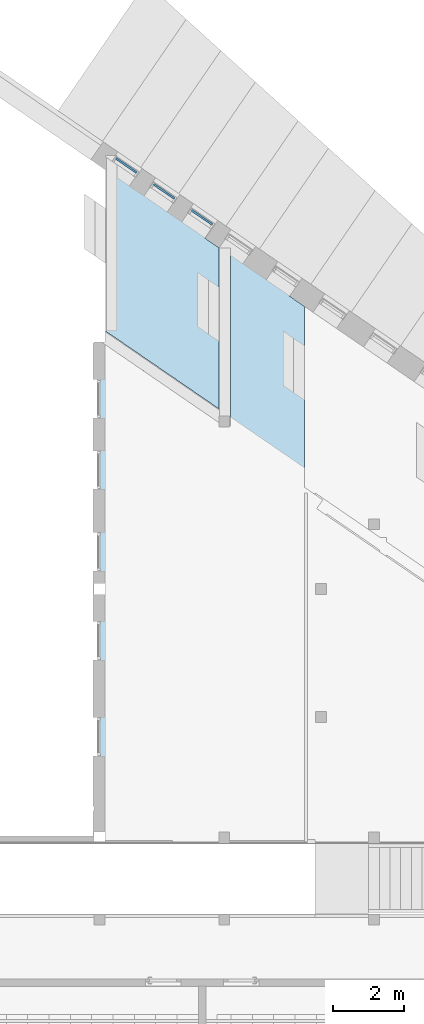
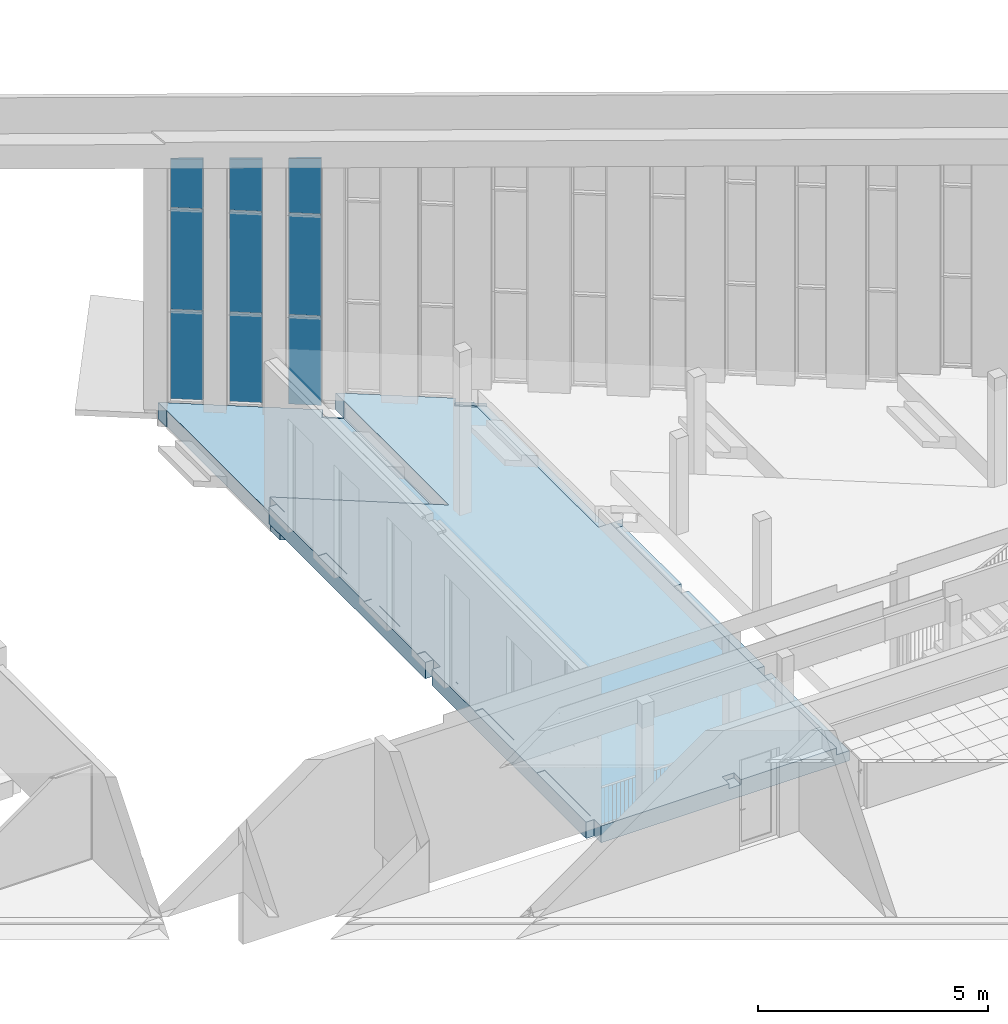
# One storey, part 32 of 79: 9 plates, 2 slabs, 3 elements without a shape of their own.
"""IFC2X3 building model written with IfcOpenShell, lengths in millimetres."""

from ifc_helpers import new_model, entity, si_unit, converted_unit, derived_unit, money_unit, direction, frame, origin_with_axes, place, context, subcontext, project, spatial, faceted_brep, material, material_list, type_object, element, aggregate, save


model = new_model("IFC2X3")

# Units and contexts
model_context = context("Model", 3, precision=0.01, world=origin_with_axes(), true_north=direction((0.0, 1.0)))
body_context = subcontext(model_context, "Body", "Model", "MODEL_VIEW")
ifc_project = project(units=[si_unit("LENGTHUNIT", "METRE", prefix="MILLI"), si_unit("AREAUNIT", "SQUARE_METRE"), si_unit("VOLUMEUNIT", "CUBIC_METRE"), converted_unit("PLANEANGLEUNIT", "DEGREE", entity("IfcPlaneAngleMeasure", 0.0174532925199), si_unit("PLANEANGLEUNIT", "RADIAN"), dimensions=[0, 0, 0, 0, 0, 0, 0]), si_unit("SOLIDANGLEUNIT", "STERADIAN"), money_unit("EUR"), converted_unit("TIMEUNIT", "Year", entity("IfcTimeMeasure", 31556926.0), si_unit("TIMEUNIT", "SECOND"), dimensions=[0, 0, 1, 0, 0, 0, 0]), si_unit("MASSUNIT", "GRAM", prefix="KILO"), si_unit("THERMODYNAMICTEMPERATUREUNIT", "DEGREE_CELSIUS"), si_unit("LUMINOUSINTENSITYUNIT", "LUMEN"), si_unit("ENERGYUNIT", "JOULE", prefix="MEGA"), derived_unit("THERMALCONDUCTANCEUNIT", [(si_unit("POWERUNIT", "WATT"), 1), (si_unit("LENGTHUNIT", "METRE"), -1), (si_unit("THERMODYNAMICTEMPERATUREUNIT", "KELVIN"), -1)]), derived_unit("SPECIFICHEATCAPACITYUNIT", [(si_unit("ENERGYUNIT", "JOULE"), 1), (si_unit("MASSUNIT", "GRAM", prefix="KILO"), -1), (si_unit("THERMODYNAMICTEMPERATUREUNIT", "KELVIN"), -1)]), derived_unit("MASSDENSITYUNIT", [(si_unit("MASSUNIT", "GRAM", prefix="KILO"), 1), (si_unit("VOLUMEUNIT", "CUBIC_METRE"), -1)])], contexts=[model_context])

# Site, building, storey
site_placement = place(None, origin_with_axes())
site = spatial("IfcSite", under=ifc_project, at=site_placement, Name="L.Koidula tn 11b", CompositionType="ELEMENT")
building_placement = place(site_placement, origin_with_axes())
building = spatial("IfcBuilding", under=site, at=building_placement, Name="Rakvere Riigigümnaasium", CompositionType="ELEMENT")
storey_placement = place(building_placement, frame((0.0, 0.0, 3720.0), z_axis=(0.0, 0.0, 1.0), x_axis=(1.0, 0.0, 0.0)))
storey = spatial("IfcBuildingStorey", under=building, at=storey_placement, Name="2.korrus +3,72", CompositionType="ELEMENT", Elevation=3720.0)

# Curtain wall, plates
curtain_wall_type = type_object("IfcCurtainWallType", Name="Curtain Wall Type", PredefinedType="NOTDEFINED")
curtain_wall_1_placement = place(storey_placement, frame((58784.8898209, 36159.1031473, -1860.00002162), z_axis=(0.0, 0.0, 1.0), x_axis=(1.0, 0.0, 0.0)))
curtain_wall_1 = element("IfcCurtainWall", 1, at=curtain_wall_1_placement, inside=storey, type_object=curtain_wall_type, Name="KLF-06-21")
ifc_material_1 = material(Name="Klaaspakett 3x")
plate_type_1 = type_object("IfcPlateType", Name="Distinct Panel 716 x 1277 x 54", PredefinedType="CURTAIN_PANEL")
plate_1_placement = place(curtain_wall_1_placement, frame((0.0, 0.0, 5773.7459999), z_axis=(0.0, 0.0, 1.0), x_axis=(-0.824666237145, 0.565619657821, 0.0)))
plate_1 = element("IfcPlate", 2, at=plate_1_placement, type_object=plate_type_1, material=ifc_material_1, Name="KLF-06-21-Klaasid", ObjectType="CURTAIN_PANEL", context=body_context, shape_type="Brep", body=[
    faceted_brep([(-357.787096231, 27.0, 657.946193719), (-357.787096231, -27.0, 657.946193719), (357.787167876, -27.0, 615.415055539), (357.787167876, 27.0, 615.415055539), (-357.78711666, 27.0, -661.745924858), (-357.78711666, -27.0, -661.745924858), (357.787045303, -27.0, -661.745924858), (357.787045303, 27.0, -661.745924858)], [[[0, 1, 2, 3]], [[4, 5, 1, 0]], [[1, 5, 6, 2]], [[3, 2, 6, 7]], [[0, 3, 7, 4]], [[7, 6, 5, 4]]]),
])
plate_type_2 = type_object("IfcPlateType", Name="Distinct Panel 716 x 2676 x 54", PredefinedType="CURTAIN_PANEL")
plate_2_placement = place(curtain_wall_1_placement, frame((-6.44359232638e-06, 4.41951186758e-06, 3750.00007855), z_axis=(0.0, 0.0, 1.0), x_axis=(-0.824666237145, 0.565619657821, 0.0)))
plate_2 = element("IfcPlate", 3, at=plate_2_placement, type_object=plate_type_2, material=ifc_material_1, Name="KLF-06-21-Klaasid", ObjectType="CURTAIN_PANEL", context=body_context, shape_type="Brep", body=[
    faceted_brep([(-357.787137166, 27.0, 1338.00001341), (-357.787137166, -27.0, 1338.00001341), (357.787052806, -27.0, 1338.00001341), (357.787052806, 27.0, 1338.00001341), (-357.7870567, 27.0, -1338.00001341), (-357.7870567, -27.0, -1338.00001341), (357.787133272, -27.0, -1338.00001341), (357.787133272, 27.0, -1338.00001341)], [[[0, 1, 2, 3]], [[4, 5, 1, 0]], [[1, 5, 6, 2]], [[3, 2, 6, 7]], [[0, 3, 7, 4]], [[7, 6, 5, 4]]]),
])

# Curtain wall, plate
curtain_wall_2_placement = place(storey_placement, frame((59849.7544247, 35428.7459613, -1860.00000854), z_axis=(0.0, 0.0, 1.0), x_axis=(1.0, 0.0, 0.0)))
curtain_wall_2 = element("IfcCurtainWall", 4, at=curtain_wall_2_placement, inside=storey, type_object=curtain_wall_type, Name="KLF-06-20")
plate_3_placement = place(curtain_wall_2_placement, frame((0.0, 0.0, 3750.00006547), z_axis=(0.0, 0.0, 1.0), x_axis=(-0.824666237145, 0.565619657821, 0.0)))
plate_3 = element("IfcPlate", 5, at=plate_3_placement, type_object=plate_type_2, material=ifc_material_1, Name="KLF-06-20-Klaasid", ObjectType="CURTAIN_PANEL", context=body_context, shape_type="Brep", body=[
    faceted_brep([(-357.871088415, 27.0, 1338.00001341), (-357.871088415, -27.0, 1338.00001341), (358.008471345, -27.0, 1338.00001341), (358.008471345, 27.0, 1338.00001341), (-357.870967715, 27.0, -1338.00001341), (-357.870967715, -27.0, -1338.00001341), (357.733598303, -27.0, -1338.00001341), (357.733598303, 27.0, -1338.00001341)], [[[0, 1, 2, 3]], [[4, 5, 1, 0]], [[1, 5, 6, 2]], [[3, 2, 6, 7]], [[0, 3, 7, 4]], [[7, 6, 5, 4]]]),
])

curtain_wall_3_placement = place(storey_placement, frame((60913.4534613, 34699.1792069, -1860.00008737), z_axis=(0.0, 0.0, 1.0), x_axis=(1.0, 0.0, 0.0)))
curtain_wall_3 = element("IfcCurtainWall", 6, at=curtain_wall_3_placement, inside=storey, type_object=curtain_wall_type, Name="KLF-06-19")
plate_4_placement = place(curtain_wall_3_placement, frame((0.0, 0.0, 3750.0001443), z_axis=(0.0, 0.0, 1.0), x_axis=(-0.824666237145, 0.565619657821, 0.0)))
plate_4 = element("IfcPlate", 7, at=plate_4_placement, type_object=plate_type_2, material=ifc_material_1, Name="KLF-06-19-Klaasid", ObjectType="CURTAIN_PANEL", context=body_context, shape_type="Brep", body=[
    faceted_brep([(-358.000003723, 27.0, 1338.00001341), (-358.000003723, -27.0, 1338.00001341), (357.999933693, -27.0, 1338.00001341), (357.999933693, 27.0, 1338.00001341), (-357.99984279, 27.0, -1338.00001341), (-357.99984279, -27.0, -1338.00001341), (357.999933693, -27.0, -1338.00001341), (357.999933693, 27.0, -1338.00001341)], [[[0, 1, 2, 3]], [[4, 5, 1, 0]], [[1, 5, 6, 2]], [[3, 2, 6, 7]], [[0, 3, 7, 4]], [[7, 6, 5, 4]]]),
])

# Plate
plate_type_3 = type_object("IfcPlateType", Name="Distinct Panel 716 x 2351 x 54", PredefinedType="CURTAIN_PANEL")
plate_5_placement = place(curtain_wall_1_placement, frame((-6.13040143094e-05, 4.20470200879e-05, 1200.00003928), z_axis=(0.0, 0.0, 1.0), x_axis=(-0.824666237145, 0.565619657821, 0.0)))
plate_5 = element("IfcPlate", 8, at=plate_5_placement, type_object=plate_type_3, material=ifc_material_1, Name="KLF-06-21-Klaasid", ObjectType="CURTAIN_PANEL", context=body_context, shape_type="Brep", body=[
    faceted_brep([(-357.787109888, 27.0, 1188.00003888), (-357.787109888, -27.0, 1188.00003888), (357.787049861, -27.0, 1188.00003888), (357.787049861, 27.0, 1188.00003888), (-357.787109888, 27.0, -1163.00003807), (-357.787109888, -27.0, -1163.00003807), (357.787157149, -27.0, -1163.00003807), (357.787157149, 27.0, -1163.00003807)], [[[0, 1, 2, 3]], [[4, 5, 1, 0]], [[1, 5, 6, 2]], [[3, 2, 6, 7]], [[0, 3, 7, 4]], [[7, 6, 5, 4]]]),
])

aggregate(curtain_wall_1, [plate_1, plate_2, plate_5])

plate_6_placement = place(curtain_wall_3_placement, frame((-5.6600676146e-05, 3.88211063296e-05, 1200.00007215), z_axis=(0.0, 0.0, 1.0), x_axis=(-0.824666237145, 0.565619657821, 0.0)))
plate_6 = element("IfcPlate", 9, at=plate_6_placement, type_object=plate_type_3, material=ifc_material_1, Name="KLF-06-19-Klaasid", ObjectType="CURTAIN_PANEL", context=body_context, shape_type="Brep", body=[
    faceted_brep([(-357.999921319, 27.0, 1188.00003011), (-357.999921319, -27.0, 1188.00003011), (357.999859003, -27.0, 1188.00003011), (357.999859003, 27.0, 1188.00003011), (-357.99981403, 27.0, -1163.00007057), (-357.99981403, -27.0, -1163.00007057), (357.999859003, -27.0, -1163.00007057), (357.999859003, 27.0, -1163.00007057)], [[[0, 1, 2, 3]], [[4, 5, 1, 0]], [[1, 5, 6, 2]], [[3, 2, 6, 7]], [[0, 3, 7, 4]], [[7, 6, 5, 4]]]),
])

plate_type_4 = type_object("IfcPlateType", Name="Distinct Panel 715 x 2351 x 54", PredefinedType="CURTAIN_PANEL")
plate_7_placement = place(curtain_wall_2_placement, frame((0.104988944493, -0.0720095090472, 1200.00003273), z_axis=(0.0, 0.0, 1.0), x_axis=(-0.824666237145, 0.565619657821, 0.0)))
plate_7 = element("IfcPlate", 10, at=plate_7_placement, type_object=plate_type_4, material=ifc_material_1, Name="KLF-06-20-Klaasid", ObjectType="CURTAIN_PANEL", context=body_context, shape_type="Brep", body=[
    faceted_brep([(-357.743654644, 27.0, 1188.00002391), (-357.743654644, -27.0, 1188.00002391), (357.858465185, -27.0, 1188.00002391), (357.858465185, 27.0, 1188.00002391), (-357.743654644, 27.0, -1163.00003186), (-357.743654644, -27.0, -1163.00003186), (357.631263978, -27.0, -1163.00003186), (357.631263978, 27.0, -1163.00003186)], [[[0, 1, 2, 3]], [[4, 5, 1, 0]], [[1, 5, 6, 2]], [[3, 2, 6, 7]], [[0, 3, 7, 4]], [[7, 6, 5, 4]]]),
])

plate_type_5 = type_object("IfcPlateType", Name="Distinct Panel 716 x 135 x 54", PredefinedType="CURTAIN_PANEL")
plate_8_placement = place(curtain_wall_2_placement, frame((-65.2351971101, 44.7433254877, 5915.84394023), z_axis=(0.0, 0.0, 1.0), x_axis=(-0.824666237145, 0.565619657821, 0.0)))
plate_8 = element("IfcPlate", 11, at=plate_8_placement, type_object=plate_type_5, material=ifc_material_1, Name="KLF-06-20-Klaasid", ObjectType="CURTAIN_PANEL", context=body_context, shape_type="Brep", body=[
    faceted_brep([(-436.976035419, 27.0, 592.601255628), (-436.976035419, -27.0, 592.601255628), (279.023645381, -27.0, 550.044843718), (279.023645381, 27.0, 550.044843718), (-436.976035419, 27.0, -803.843871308), (-436.976035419, -27.0, -803.843871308), (278.905902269, -27.0, -803.843871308), (279.023688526, -27.0, 414.912834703), (279.023688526, 27.0, 414.912834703), (278.905902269, 27.0, -803.843871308)], [[[0, 1, 2, 3]], [[4, 5, 1, 0]], [[1, 5, 6, 7, 2]], [[3, 2, 7, 8]], [[0, 3, 8, 9, 4]], [[9, 6, 5, 4]], [[8, 7, 6, 9]]]),
])

aggregate(curtain_wall_2, [plate_3, plate_7, plate_8])

plate_type_6 = type_object("IfcPlateType", Name="Distinct Panel 716 x 1431 x 54", PredefinedType="CURTAIN_PANEL")
plate_9_placement = place(curtain_wall_3_placement, frame((6.2593436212e-05, -4.29314042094e-05, 5850.45229898), z_axis=(0.0, 0.0, 1.0), x_axis=(-0.824666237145, 0.565619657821, 0.0)))
plate_9 = element("IfcPlate", 12, at=plate_9_placement, type_object=plate_type_6, material=ifc_material_1, Name="KLF-06-19-Klaasid", ObjectType="CURTAIN_PANEL", context=body_context, shape_type="Brep", body=[
    faceted_brep([(-358.000113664, 27.0, 734.665106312), (-358.000113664, -27.0, 734.665106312), (358.000045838, -27.0, 692.108586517), (358.000045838, 27.0, 692.108586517), (-357.999931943, 27.0, -738.45216432), (-357.999931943, -27.0, -738.45216432), (358.000000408, -27.0, -738.45216432), (358.000000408, 27.0, -738.45216432)], [[[0, 1, 2, 3]], [[4, 5, 1, 0]], [[1, 5, 6, 2]], [[3, 2, 6, 7]], [[0, 3, 7, 4]], [[7, 6, 5, 4]]]),
])

aggregate(curtain_wall_3, [plate_4, plate_9, plate_6])

# Slabs
ifc_material_2 = material(Name="Parkett")
ifc_material_3 = material(Name="Betoon")
ifc_material_4 = material(Name="Mürasummutus vill")
ifc_material_5 = material(Name="Betoon õõnespaneel")
ifc_material_list = material_list([ifc_material_2, ifc_material_3, ifc_material_4, ifc_material_5])
slab_type = type_object("IfcSlabType", Name="VL-03 445", PredefinedType="NOTDEFINED")
slab_1_placement = place(storey_placement, frame((57980.0347849, 31200.4552786, -1395.0), z_axis=(0.0, 0.0, 1.0), x_axis=(1.0, 0.0, 0.0)))
element("IfcSlab", 13, at=slab_1_placement, inside=storey, type_object=slab_type, material=ifc_material_list, Name="Suured astmed", PredefinedType="NOTDEFINED", context=body_context, shape_type="Brep", body=[
    faceted_brep([(3409.98614609, -14089.5000576, -10.0), (200.000096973, -14089.5000576, -10.0), (200.000096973, -13889.9997691, -10.0), (200.000026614, -11644.3096663, -10.0), (2.51788989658e-05, -11644.3096663, -10.0), (2.51788989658e-05, -10564.3096663, -10.0), (200.000027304, -10564.3096663, -10.0), (200.000028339, -8944.45883695, -10.0), (2.51788989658e-05, -8944.45883695, -10.0), (2.51788989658e-05, -7864.45883695, -10.0), (200.00002903, -7864.45883695, -10.0), (200.000029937, -6444.14850412, -10.0), (2.51788989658e-05, -6444.14850412, -10.0), (2.51788989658e-05, -5364.14850412, -10.0), (200.000030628, -5364.14850412, -10.0), (200.000031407, -4144.81505318, -10.0), (2.51788989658e-05, -4144.81505318, -10.0), (2.51788989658e-05, -3064.81505318, -10.0), (200.000032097, -3064.81505318, -10.0), (200.000032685, -2145.04608211, -10.0), (2.51788989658e-05, -2145.04608211, -10.0), (2.51788989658e-05, -1065.04608211, -10.0), (200.000033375, -1065.04608211, -10.0), (200.000034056, 0.000239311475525, -10.0), (200.000025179, 300.000239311, -10.0), (224.581434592, 300.000262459, -10.0), (221.481737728, 290.00026234, -10.0), (3409.96603786, -1896.77966241, -10.0), (3419.96602111, -1903.6380191, -10.0), (3419.97711686, 2638.73247619, -10.0), (3409.97713362, 2645.59123925, -10.0), (3409.9780223, 3009.39975224, -10.0), (5565.76089727, 1530.80035773, -10.0), (5396.06140792, 1283.38081072, -10.0), (5809.98614609, 999.479164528, -10.0), (5809.98614609, -4257.76917264, -10.0), (6129.98614609, -4257.76917264, -10.0), (6429.96521538, -4257.76917264, -10.0), (6429.96521538, -4257.93883786, -10.0), (6109.96521538, -4257.93883786, -10.0), (6109.96521431, -14089.5000576, -10.0), (3709.98614609, -14089.5000576, -10.0), (3709.98614609, -13790.0227645, -10.0), (3409.98614609, -13790.0227645, -10.0), (3409.98614609, -14089.5000576, 0.0), (200.000096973, -14089.5000576, 0.0), (200.00002661, -11644.3096663, 0.0), (2.51788989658e-05, -11644.3096663, 0.0), (2.51788989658e-05, -10564.3096663, 0.0), (200.000027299, -10564.3096663, 0.0), (200.000028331, -8944.45883695, 0.0), (2.51788989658e-05, -8944.45883695, 0.0), (2.51788989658e-05, -7864.45883695, 0.0), (200.00002902, -7864.45883695, 0.0), (200.000029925, -6444.14850412, 0.0), (2.51788989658e-05, -6444.14850412, 0.0), (2.51788989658e-05, -5364.14850412, 0.0), (200.000030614, -5364.14850412, 0.0), (200.000031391, -4144.81505318, 0.0), (2.51788989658e-05, -4144.81505318, 0.0), (2.51788989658e-05, -3064.81505318, 0.0), (200.00003208, -3064.81505318, 0.0), (200.000032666, -2145.04608211, 0.0), (2.51788989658e-05, -2145.04608211, 0.0), (2.51788989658e-05, -1065.04608211, 0.0), (200.000033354, -1065.04608211, 0.0), (200.000033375, 0.000239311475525, 0.0), (200.000025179, 300.000239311, 0.0), (224.581434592, 300.000262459, 0.0), (221.481737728, 290.00026234, 0.0), (3409.96603786, -1896.77966241, 0.0), (3419.96602111, -1903.6380191, 0.0), (3419.97711686, 2638.73247619, 0.0), (3409.97713362, 2645.59123925, 0.0), (3409.9780223, 3009.39975224, 0.0), (5565.76089727, 1530.80035773, 0.0), (5396.06140792, 1283.38081072, 0.0), (5809.98614609, 999.479164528, 0.0), (5809.98614609, -4257.76917264, 0.0), (6129.98614609, -4257.76917264, 0.0), (6429.96521538, -4257.76917264, 0.0), (6429.96521538, -4257.93883786, 0.0), (6109.96521538, -4257.93883786, 0.0), (6109.96521431, -14089.5000576, 0.0), (3709.98614609, -14089.5000576, 0.0), (3709.98614609, -13790.0227645, 0.0), (3409.98614609, -13790.0227645, 0.0)], [[[0, 1, 2, 3, 4, 5, 6, 7, 8, 9, 10, 11, 12, 13, 14, 15, 16, 17, 18, 19, 20, 21, 22, 23, 24, 25, 26, 27, 28, 29, 30, 31, 32, 33, 34, 35, 36, 37, 38, 39, 40, 41, 42, 43]], [[44, 45, 1, 0]], [[1, 45, 46, 3, 2]], [[4, 3, 46, 47]], [[48, 5, 4, 47]], [[6, 5, 48, 49]], [[7, 6, 49, 50]], [[8, 7, 50, 51]], [[52, 9, 8, 51]], [[10, 9, 52, 53]], [[11, 10, 53, 54]], [[12, 11, 54, 55]], [[56, 13, 12, 55]], [[14, 13, 56, 57]], [[15, 14, 57, 58]], [[16, 15, 58, 59]], [[60, 17, 16, 59]], [[18, 17, 60, 61]], [[19, 18, 61, 62]], [[20, 19, 62, 63]], [[64, 21, 20, 63]], [[22, 21, 64, 65]], [[23, 22, 65, 66]], [[67, 24, 23, 66]], [[24, 67, 68, 25]], [[69, 26, 25, 68]], [[26, 69, 70, 27]], [[28, 27, 70, 71]], [[29, 28, 71, 72]], [[30, 29, 72, 73]], [[74, 31, 30, 73]], [[31, 74, 75, 32]], [[76, 33, 32, 75]], [[33, 76, 77, 34]], [[78, 35, 34, 77]], [[78, 79, 36, 35]], [[80, 37, 36, 79]], [[37, 80, 81, 38]], [[39, 38, 81, 82]], [[83, 40, 39, 82]], [[83, 84, 41, 40]], [[41, 84, 85, 42]], [[42, 85, 86, 43]], [[43, 86, 44, 0]], [[46, 45, 44, 86, 85, 84, 83, 82, 81, 80, 79, 78, 77, 76, 75, 74, 73, 72, 71, 70, 69, 68, 67, 66, 65, 64, 63, 62, 61, 60, 59, 58, 57, 56, 55, 54, 53, 52, 51, 50, 49, 48, 47]]]),
    faceted_brep([(200.000096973, -6799.99973141, -10.0), (200.000096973, -7099.99973141, -10.0), (0.0, -7099.99973141, -10.0), (0.0, -13789.9997691, -10.0), (200.000096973, -13789.9997691, -10.0), (200.000096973, -14089.5000576, -10.0), (3409.98614609, -14089.5000576, -10.0), (3409.98614609, -13790.0227645, -10.0), (3709.98614609, -13790.0227645, -10.0), (3709.98614609, -14089.5000576, -10.0), (6109.96521431, -14089.5000576, -10.0), (6109.96521538, -4257.93883786, -10.0), (6429.96521538, -4257.93883786, -10.0), (6429.96521538, -4257.76917264, -10.0), (6129.98614609, -4257.76917264, -10.0), (5809.98614609, -4257.76917264, -10.0), (5809.98614609, 999.479164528, -10.0), (5396.06140792, 1283.38081072, -10.0), (5565.76089727, 1530.80035773, -10.0), (3409.9780223, 3009.39975224, -10.0), (3409.97713362, 2645.59123925, -10.0), (3419.97711686, 2638.73247619, -10.0), (3419.96602111, -1903.6380191, -10.0), (3409.96603786, -1896.77966241, -10.0), (221.481737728, 290.00026234, -10.0), (224.581434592, 300.000262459, -10.0), (200.000025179, 300.000239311, -10.0), (200.000384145, 0.000239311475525, -10.0), (0.0, 0.0, -10.0), (0.0, -6799.99973141, -10.0), (200.000096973, -7099.99973141, -100.0), (200.000096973, -6799.99973141, -100.0), (0.0, -7099.99973141, -100.0), (0.0, -13789.9997691, -100.0), (200.000096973, -13789.9997691, -100.0), (200.000096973, -14089.5000576, -100.0), (3409.98614609, -14089.5000576, -100.0), (3409.98614609, -13790.0227645, -100.0), (3709.98614609, -13790.0227645, -100.0), (3709.98614609, -14089.5000576, -100.0), (6109.96521431, -14089.5000576, -100.0), (6109.96521538, -4257.93883786, -100.0), (6429.96521538, -4257.93883786, -100.0), (6429.96521538, -4257.76917264, -100.0), (6129.98614609, -4257.76917264, -100.0), (5809.98614609, -4257.76917264, -100.0), (5809.98614609, 999.479164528, -100.0), (5396.06140792, 1283.38081072, -100.0), (5565.76089727, 1530.80035773, -100.0), (3409.9780223, 3009.39975224, -100.0), (3409.97713362, 2645.59123925, -100.0), (3419.97711686, 2638.73247619, -100.0), (3419.96602111, -1903.6380191, -100.0), (3409.96603786, -1896.77966241, -100.0), (221.481737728, 290.00026234, -100.0), (224.581434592, 300.000262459, -100.0), (200.000025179, 300.000239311, -100.0), (200.000384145, 0.000239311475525, -100.0), (0.0, 0.0, -100.0), (0.0, -6799.99973141, -100.0)], [[[0, 1, 2, 3, 4, 5, 6, 7, 8, 9, 10, 11, 12, 13, 14, 15, 16, 17, 18, 19, 20, 21, 22, 23, 24, 25, 26, 27, 28, 29]], [[30, 1, 0, 31]], [[32, 2, 1, 30]], [[3, 2, 32, 33]], [[34, 4, 3, 33]], [[35, 5, 4, 34]], [[6, 5, 35, 36]], [[37, 7, 6, 36]], [[38, 8, 7, 37]], [[39, 9, 8, 38]], [[10, 9, 39, 40]], [[10, 40, 41, 11]], [[41, 42, 12, 11]], [[43, 13, 12, 42]], [[13, 43, 44, 14]], [[15, 14, 44, 45]], [[15, 45, 46, 16]], [[47, 17, 16, 46]], [[17, 47, 48, 18]], [[49, 19, 18, 48]], [[19, 49, 50, 20]], [[50, 51, 21, 20]], [[51, 52, 22, 21]], [[52, 53, 23, 22]], [[54, 24, 23, 53]], [[24, 54, 55, 25]], [[56, 26, 25, 55]], [[27, 26, 56, 57]], [[28, 27, 57, 58]], [[58, 59, 29, 28]], [[31, 0, 29, 59]], [[30, 31, 59, 58, 57, 56, 55, 54, 53, 52, 51, 50, 49, 48, 47, 46, 45, 44, 43, 42, 41, 40, 39, 38, 37, 36, 35, 34, 33, 32]]]),
    faceted_brep([(200.000096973, -6799.99973141, -100.0), (200.000096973, -7099.99973141, -100.0), (0.0, -7099.99973141, -100.0), (0.0, -13789.9997691, -100.0), (200.000096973, -13789.9997691, -100.0), (200.000096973, -14089.5000576, -100.0), (3409.98614609, -14089.5000576, -100.0), (3409.98614609, -13790.0227645, -100.0), (3709.98614609, -13790.0227645, -100.0), (3709.98614609, -14089.5000576, -100.0), (6109.96521431, -14089.5000576, -100.0), (6109.96521538, -4257.93883786, -100.0), (6429.96521538, -4257.93883786, -100.0), (6429.96521538, -4257.76917264, -100.0), (6129.98614609, -4257.76917264, -100.0), (5809.98614609, -4257.76917264, -100.0), (5809.98614609, 999.479164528, -100.0), (5396.06140792, 1283.38081072, -100.0), (5565.74737108, 1530.78063673, -100.0), (6129.98614609, 1143.78198141, -100.0), (6129.98614609, 1143.81189013, -100.0), (3409.9780223, 3009.39975224, -100.0), (3409.97713362, 2645.59123925, -100.0), (3419.97711686, 2638.73247619, -100.0), (3419.96602111, -1903.6380191, -100.0), (3409.96603786, -1896.77966241, -100.0), (221.481737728, 290.00026234, -100.0), (224.581434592, 300.000262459, -100.0), (200.000025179, 300.000239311, -100.0), (200.000384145, 0.000239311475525, -100.0), (0.0, 0.0, -100.0), (0.0, -6799.99973141, -100.0), (200.000096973, -7099.99973141, -180.0), (200.000096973, -6799.99973141, -180.0), (0.0, -7099.99973141, -180.0), (0.0, -13789.9997691, -180.0), (200.000096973, -13789.9997691, -180.0), (200.000096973, -14089.5000576, -180.0), (6109.96521431, -14089.5000576, -180.0), (3709.98614609, -14089.5000576, -130.0), (3409.98614609, -14089.5000576, -130.0), (3409.98614609, -13790.0227645, -130.0), (3709.98614609, -13790.0227645, -130.0), (6109.96521431, -13889.9997561, -180.0), (6109.96521538, -4257.93883786, -180.0), (6429.96521538, -4257.93883786, -180.0), (6429.96521538, -4257.76917264, -180.0), (6129.98614609, -4257.76917264, -180.0), (5809.98614609, -4257.76917264, -180.0), (5809.98614609, 999.479164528, -180.0), (5396.06140792, 1283.38081072, -180.0), (5565.74737108, 1530.78063673, -180.0), (6129.98614609, 1143.78198141, -180.0), (6129.98614609, 1143.81189013, -180.0), (3409.9780223, 3009.39975224, -180.0), (3409.97713362, 2645.59123925, -180.0), (3419.97711686, 2638.73247619, -180.0), (3419.96602111, -1903.6380191, -180.0), (3409.96603786, -1896.77966241, -180.0), (221.481737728, 290.00026234, -180.0), (224.581434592, 300.000262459, -180.0), (200.000025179, 300.000239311, -180.0), (200.000384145, 0.000239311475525, -180.0), (0.0, 0.0, -180.0), (0.0, -6799.99973141, -180.0)], [[[0, 1, 2, 3, 4, 5, 6, 7, 8, 9, 10, 11, 12, 13, 14, 15, 16, 17, 18, 19, 20, 21, 22, 23, 24, 25, 26, 27, 28, 29, 30, 31]], [[32, 1, 0, 33]], [[34, 2, 1, 32]], [[3, 2, 34, 35]], [[36, 4, 3, 35]], [[37, 5, 4, 36]], [[6, 5, 37, 38, 10, 9, 39, 40]], [[41, 7, 6, 40]], [[42, 8, 7, 41]], [[39, 9, 8, 42]], [[10, 38, 43, 44, 11]], [[44, 45, 12, 11]], [[46, 13, 12, 45]], [[13, 46, 47, 14]], [[15, 14, 47, 48]], [[15, 48, 49, 16]], [[50, 17, 16, 49]], [[50, 51, 18, 17]], [[18, 51, 52, 19]], [[53, 20, 19, 52]], [[21, 20, 53, 54]], [[21, 54, 55, 22]], [[55, 56, 23, 22]], [[56, 57, 24, 23]], [[57, 58, 25, 24]], [[59, 26, 25, 58]], [[26, 59, 60, 27]], [[61, 28, 27, 60]], [[29, 28, 61, 62]], [[30, 29, 62, 63]], [[63, 64, 31, 30]], [[33, 0, 31, 64]], [[32, 33, 64, 63, 62, 61, 60, 59, 58, 57, 56, 55, 54, 53, 52, 51, 50, 49, 48, 47, 46, 45, 44, 43, 38, 37, 36, 35, 34]], [[41, 40, 39, 42]]]),
    faceted_brep([(200.000096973, -6799.99973141, -180.0), (200.000096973, -7099.99973141, -180.0), (0.0, -7099.99973141, -180.0), (0.0, -13789.9997691, -180.0), (200.000096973, -13789.9997691, -180.0), (200.000096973, -14089.5000576, -180.0), (6429.96521538, -14089.5000576, -180.0), (6429.96521538, -10699.9921179, -180.0), (6129.98614609, -10699.9921179, -180.0), (6129.98614609, -10399.9921179, -180.0), (6429.96521538, -10399.9921179, -180.0), (6429.96521538, -7099.99973141, -180.0), (6129.98614609, -7099.99973141, -180.0), (6129.98614609, -6799.99973141, -180.0), (6429.96521538, -6799.99973141, -180.0), (6429.96521538, -4257.76917264, -180.0), (6129.98614609, -4257.76917264, -180.0), (6129.98614609, 1143.81189013, -180.0), (3429.97798879, 2995.68225838, -180.0), (3429.97798873, 2995.6567063, -180.0), (3409.97802224, 3009.37423242, -180.0), (3409.97713362, 2645.59123925, -180.0), (3429.97710011, 2631.87371313, -180.0), (3429.96597474, -1922.6222457, -180.0), (3419.96599149, -1915.76388902, -180.0), (218.382039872, 280.000259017, -180.0), (224.581434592, 300.000262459, -180.0), (200.000025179, 300.000239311, -180.0), (200.000384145, 0.000239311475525, -180.0), (0.0, 0.0, -180.0), (0.0, -6799.99973141, -180.0), (200.000096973, -7099.99973141, -445.0), (200.000096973, -6799.99973141, -445.0), (0.0, -7099.99973141, -445.0), (0.0, -13789.9997691, -445.0), (200.000096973, -13789.9997691, -445.0), (200.000096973, -14089.5000576, -445.0), (6429.96521538, -14089.5000576, -445.0), (6429.96521538, -10699.9921179, -445.0), (6129.98614609, -10699.9921179, -445.0), (6129.98614609, -10399.9921179, -445.0), (6429.96521538, -10399.9921179, -445.0), (6429.96521538, -7099.99973141, -445.0), (6129.98614609, -7099.99973141, -445.0), (6129.98614609, -6799.99973141, -445.0), (6429.96521538, -6799.99973141, -445.0), (6429.96521538, -4257.76917264, -445.0), (6129.98614609, -4257.76917264, -445.0), (6129.98614609, 1143.81189013, -445.0), (3429.97798879, 2995.68225838, -445.0), (3429.97798873, 2995.6567063, -445.0), (3409.97802224, 3009.37423242, -445.0), (3409.97713362, 2645.59123925, -445.0), (3429.97710011, 2631.87371313, -445.0), (3429.96597474, -1922.6222457, -445.0), (3419.96599149, -1915.76388902, -445.0), (218.382039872, 280.000259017, -445.0), (224.581434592, 300.000262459, -445.0), (200.000025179, 300.000239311, -445.0), (200.000384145, 0.000239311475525, -445.0), (0.0, 0.0, -445.0), (0.0, -6799.99973141, -445.0)], [[[0, 1, 2, 3, 4, 5, 6, 7, 8, 9, 10, 11, 12, 13, 14, 15, 16, 17, 18, 19, 20, 21, 22, 23, 24, 25, 26, 27, 28, 29, 30]], [[31, 1, 0, 32]], [[33, 2, 1, 31]], [[3, 2, 33, 34]], [[35, 4, 3, 34]], [[36, 5, 4, 35]], [[6, 5, 36, 37]], [[37, 38, 7, 6]], [[39, 8, 7, 38]], [[40, 9, 8, 39]], [[40, 41, 10, 9]], [[41, 42, 11, 10]], [[43, 12, 11, 42]], [[44, 13, 12, 43]], [[44, 45, 14, 13]], [[15, 14, 45, 46]], [[47, 16, 15, 46]], [[48, 17, 16, 47]], [[17, 48, 49, 18]], [[49, 50, 19, 18]], [[50, 51, 20, 19]], [[20, 51, 52, 21]], [[21, 52, 53, 22]], [[53, 54, 23, 22]], [[54, 55, 24, 23]], [[56, 25, 24, 55]], [[57, 26, 25, 56]], [[58, 27, 26, 57]], [[59, 28, 27, 58]], [[60, 29, 28, 59]], [[60, 61, 30, 29]], [[32, 0, 30, 61]], [[31, 32, 61, 60, 59, 58, 57, 56, 55, 54, 53, 52, 51, 50, 49, 48, 47, 46, 45, 44, 43, 42, 41, 40, 39, 38, 37, 36, 35, 34, 33]]]),
])
slab_2_placement = place(storey_placement, frame((58204.8070978, 31112.2728144, -1860.0), z_axis=(0.0, 0.0, 1.0), x_axis=(1.0, 0.0, 0.0)))
element("IfcSlab", 14, at=slab_2_placement, inside=storey, type_object=slab_type, material=ifc_material_list, Name="Suured astmed", PredefinedType="NOTDEFINED", context=body_context, shape_type="Brep", body=[
    faceted_brep([(3185.19375455, -1796.4713283, 0.0), (3185.20482069, 2733.77370345, 0.0), (2787.09388395, 3006.82901975, 0.0), (2958.97837952, 3257.4342761, 0.0), (9.99999999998, 5280.07191228, 0.0), (9.99999999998, 5275.35870931, 0.0), (0.0, 5282.21748386, 0.0), (0.0, 4918.43388121, 0.0), (9.99999999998, 4911.57510665, 0.0), (9.99999999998, 398.182700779, 0.0), (0.0, 398.182700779, 0.0), (0.0, 388.051819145, 0.0), (3185.20482069, 2733.77370345, -10.0), (3185.19375455, -1796.4713283, -10.0), (2787.09388395, 3006.82901975, -10.0), (2958.97837952, 3257.4342761, -10.0), (9.99999999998, 5280.07191228, -10.0), (9.99999999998, 5275.35870931, -10.0), (0.0, 5282.21748386, -10.0), (0.0, 4918.43388121, -10.0), (9.99999999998, 4911.57510665, -10.0), (9.99999999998, 398.182700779, -10.0), (0.0, 398.182700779, -10.0), (0.0, 388.051819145, -10.0)], [[[0, 1, 2, 3, 4, 5, 6, 7, 8, 9, 10, 11]], [[12, 1, 0, 13]], [[1, 12, 14, 2]], [[2, 14, 15, 3]], [[3, 15, 16, 4]], [[16, 17, 5, 4]], [[17, 18, 6, 5]], [[19, 7, 6, 18]], [[7, 19, 20, 8]], [[8, 20, 21, 9]], [[9, 21, 22, 10]], [[11, 10, 22, 23]], [[13, 0, 11, 23]], [[12, 13, 23, 22, 21, 20, 19, 18, 17, 16, 15, 14]]]),
    faceted_brep([(3185.19375455, -1796.4713283, -10.0), (3185.20482069, 2733.77370345, -10.0), (2787.09388395, 3006.82901975, -10.0), (2958.97837952, 3257.4342761, -10.0), (9.99999999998, 5280.07191228, -10.0), (9.99999999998, 5275.35870931, -10.0), (0.0, 5282.21748386, -10.0), (0.0, 4918.43388121, -10.0), (9.99999999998, 4911.57510665, -10.0), (9.99999999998, 398.182700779, -10.0), (0.0, 398.182700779, -10.0), (0.0, 388.051819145, -10.0), (3185.20482069, 2733.77370345, -100.0), (3185.19375455, -1796.4713283, -100.0), (2787.09388395, 3006.82901975, -100.0), (2958.97837952, 3257.4342761, -100.0), (9.99999999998, 5280.07191228, -100.0), (9.99999999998, 5275.35870931, -100.0), (0.0, 5282.21748386, -100.0), (0.0, 4918.43388121, -100.0), (9.99999999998, 4911.57510665, -100.0), (9.99999999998, 398.182700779, -100.0), (0.0, 398.182700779, -100.0), (0.0, 388.051819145, -100.0)], [[[0, 1, 2, 3, 4, 5, 6, 7, 8, 9, 10, 11]], [[12, 1, 0, 13]], [[1, 12, 14, 2]], [[2, 14, 15, 3]], [[3, 15, 16, 4]], [[16, 17, 5, 4]], [[17, 18, 6, 5]], [[19, 7, 6, 18]], [[7, 19, 20, 8]], [[8, 20, 21, 9]], [[9, 21, 22, 10]], [[11, 10, 22, 23]], [[13, 0, 11, 23]], [[12, 13, 23, 22, 21, 20, 19, 18, 17, 16, 15, 14]]]),
    faceted_brep([(3185.19375455, -1796.4713283, -100.0), (3185.20482069, 2733.77370345, -100.0), (2787.09388395, 3006.82901975, -100.0), (2958.97837952, 3257.4342761, -100.0), (9.99999999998, 5280.07191228, -100.0), (9.99999999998, 5275.35870931, -100.0), (0.0, 5282.21748386, -100.0), (0.0, 4918.43388121, -100.0), (9.99999999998, 4911.57510665, -100.0), (9.99999999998, 398.182700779, -100.0), (0.0, 398.182700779, -100.0), (0.0, 388.051819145, -100.0), (3185.20482069, 2733.77370345, -180.0), (3185.19375455, -1796.4713283, -180.0), (2787.09388395, 3006.82901975, -180.0), (2958.97837952, 3257.4342761, -180.0), (9.99999999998, 5280.07191228, -180.0), (9.99999999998, 5275.35870931, -180.0), (0.0, 5282.21748386, -180.0), (0.0, 4918.43388121, -180.0), (9.99999999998, 4911.57510665, -180.0), (9.99999999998, 398.182700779, -180.0), (0.0, 398.182700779, -180.0), (0.0, 388.051819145, -180.0)], [[[0, 1, 2, 3, 4, 5, 6, 7, 8, 9, 10, 11]], [[12, 1, 0, 13]], [[1, 12, 14, 2]], [[2, 14, 15, 3]], [[3, 15, 16, 4]], [[16, 17, 5, 4]], [[17, 18, 6, 5]], [[19, 7, 6, 18]], [[7, 19, 20, 8]], [[8, 20, 21, 9]], [[9, 21, 22, 10]], [[11, 10, 22, 23]], [[13, 0, 11, 23]], [[12, 13, 23, 22, 21, 20, 19, 18, 17, 16, 15, 14]]]),
    faceted_brep([(3185.21383316, -2184.51321168, -180.0), (3185.21383316, -2002.22192253, -180.0), (3485.21383316, -2002.22192253, -180.0), (3485.21383316, -2276.56894557, -180.0), (3505.19258994, -2282.69947552, -180.0), (3505.19688191, 2878.08196536, -180.0), (320.0, 5062.73669809, -180.0), (320.0, 5067.44991695, -180.0), (20.0, 5273.21313823, -180.0), (20.0, 5268.49993475, -180.0), (0.0, 5282.21748386, -180.0), (0.0, 4918.43388121, -180.0), (20.0, 4904.7163321, -180.0), (20.0, 398.182700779, -180.0), (0.0, 398.182700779, -180.0), (0.0, 0.0, -180.0), (3185.21383316, -2184.51321168, -445.0), (3185.21383316, -2002.22192253, -445.0), (3485.21383316, -2002.22192253, -445.0), (3485.21383316, -2276.56894557, -445.0), (3505.19258994, -2282.69947552, -445.0), (3505.19688191, 2878.08196536, -445.0), (320.0, 5062.73669809, -445.0), (320.0, 5067.44991695, -445.0), (20.0, 5273.21313823, -445.0), (20.0, 5268.49993475, -445.0), (0.0, 5282.21748386, -445.0), (0.0, 4918.43388121, -445.0), (20.0, 4904.7163321, -445.0), (20.0, 398.182700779, -445.0), (0.0, 398.182700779, -445.0), (0.0, 0.0, -445.0)], [[[0, 1, 2, 3, 4, 5, 6, 7, 8, 9, 10, 11, 12, 13, 14, 15]], [[1, 0, 16, 17]], [[2, 1, 17, 18]], [[3, 2, 18, 19]], [[3, 19, 20, 4]], [[20, 21, 5, 4]], [[6, 5, 21, 22]], [[22, 23, 7, 6]], [[23, 24, 8, 7]], [[25, 9, 8, 24]], [[10, 9, 25, 26]], [[11, 10, 26, 27]], [[27, 28, 12, 11]], [[29, 13, 12, 28]], [[14, 13, 29, 30]], [[15, 14, 30, 31]], [[16, 0, 15, 31]], [[17, 16, 31, 30, 29, 28, 27, 26, 25, 24, 23, 22, 21, 20, 19, 18]]]),
])

save(model, "model.ifc")
